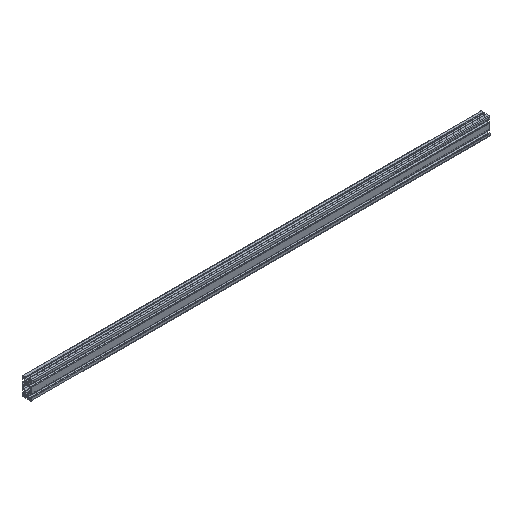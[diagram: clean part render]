
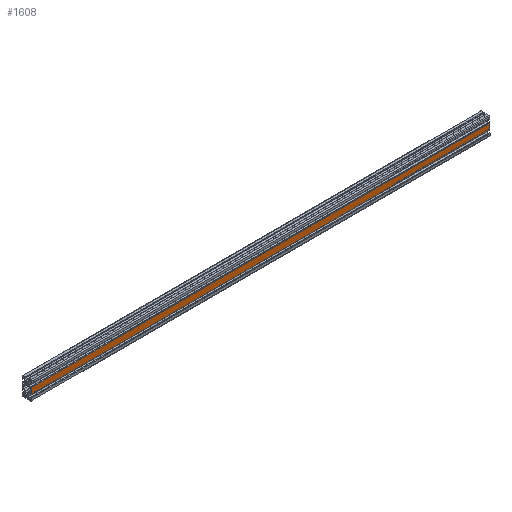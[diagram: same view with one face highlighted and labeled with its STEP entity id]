
A CAD part, isometric view. The second image highlights one B-rep face of the part: STEP entity #1608.
In plain terms, the highlighted planar face has unit normal (0, -1, 0).
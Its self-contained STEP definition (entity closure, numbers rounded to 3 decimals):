
#22 = DIRECTION ( 'NONE',  ( 0., 0., -1. ) ) ;
#113 = VERTEX_POINT ( 'NONE', #3951 ) ;
#647 = ORIENTED_EDGE ( 'NONE', *, *, #2744, .F. ) ;
#676 = LINE ( 'NONE', #956, #1539 ) ;
#773 = EDGE_LOOP ( 'NONE', ( #4104, #1073, #647, #3107 ) ) ;
#833 = CARTESIAN_POINT ( 'NONE',  ( 0., -10., 6.8 ) ) ;
#834 = VECTOR ( 'NONE', #2526, 1000. ) ;
#956 = CARTESIAN_POINT ( 'NONE',  ( 0., -10., 6.8 ) ) ;
#1073 = ORIENTED_EDGE ( 'NONE', *, *, #3109, .F. ) ;
#1306 = VERTEX_POINT ( 'NONE', #833 ) ;
#1379 = DIRECTION ( 'NONE',  ( 0., 0., -1. ) ) ;
#1539 = VECTOR ( 'NONE', #1379, 1000. ) ;
#1581 = CARTESIAN_POINT ( 'NONE',  ( 1000., -10., 6.8 ) ) ;
#1608 = ADVANCED_FACE ( 'NONE', ( #1916 ), #1922, .F. ) ;
#1781 = AXIS2_PLACEMENT_3D ( 'NONE', #3520, #3180, #1956 ) ;
#1830 = CARTESIAN_POINT ( 'NONE',  ( 1000., -10., 6.8 ) ) ;
#1916 = FACE_OUTER_BOUND ( 'NONE', #773, .T. ) ;
#1922 = PLANE ( 'NONE',  #1781 ) ;
#1956 = DIRECTION ( 'NONE',  ( 0., 0., 1. ) ) ;
#2348 = EDGE_CURVE ( 'NONE', #3275, #1306, #4051, .T. ) ;
#2513 = CARTESIAN_POINT ( 'NONE',  ( 1000., -10., -6.8 ) ) ;
#2526 = DIRECTION ( 'NONE',  ( -1., 0., 0. ) ) ;
#2654 = LINE ( 'NONE', #2513, #834 ) ;
#2709 = CARTESIAN_POINT ( 'NONE',  ( 1000., -10., -6.8 ) ) ;
#2744 = EDGE_CURVE ( 'NONE', #3275, #3485, #4048, .T. ) ;
#2963 = EDGE_CURVE ( 'NONE', #1306, #113, #676, .T. ) ;
#3107 = ORIENTED_EDGE ( 'NONE', *, *, #2348, .T. ) ;
#3109 = EDGE_CURVE ( 'NONE', #3485, #113, #2654, .T. ) ;
#3135 = VECTOR ( 'NONE', #22, 1000. ) ;
#3140 = VECTOR ( 'NONE', #3236, 1000. ) ;
#3180 = DIRECTION ( 'NONE',  ( 0., 1., 0. ) ) ;
#3183 = CARTESIAN_POINT ( 'NONE',  ( 1000., -10., 6.8 ) ) ;
#3236 = DIRECTION ( 'NONE',  ( -1., 0., 0. ) ) ;
#3275 = VERTEX_POINT ( 'NONE', #1830 ) ;
#3485 = VERTEX_POINT ( 'NONE', #2709 ) ;
#3520 = CARTESIAN_POINT ( 'NONE',  ( 1000., -10., 6.8 ) ) ;
#3951 = CARTESIAN_POINT ( 'NONE',  ( 0., -10., -6.8 ) ) ;
#4048 = LINE ( 'NONE', #1581, #3135 ) ;
#4051 = LINE ( 'NONE', #3183, #3140 ) ;
#4104 = ORIENTED_EDGE ( 'NONE', *, *, #2963, .T. ) ;
